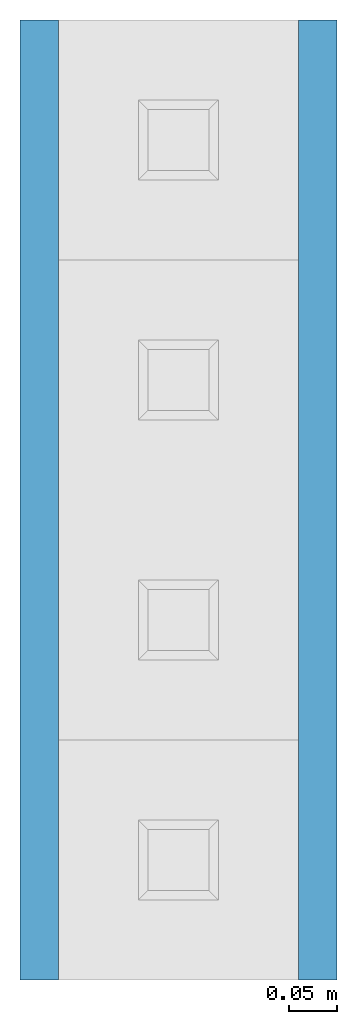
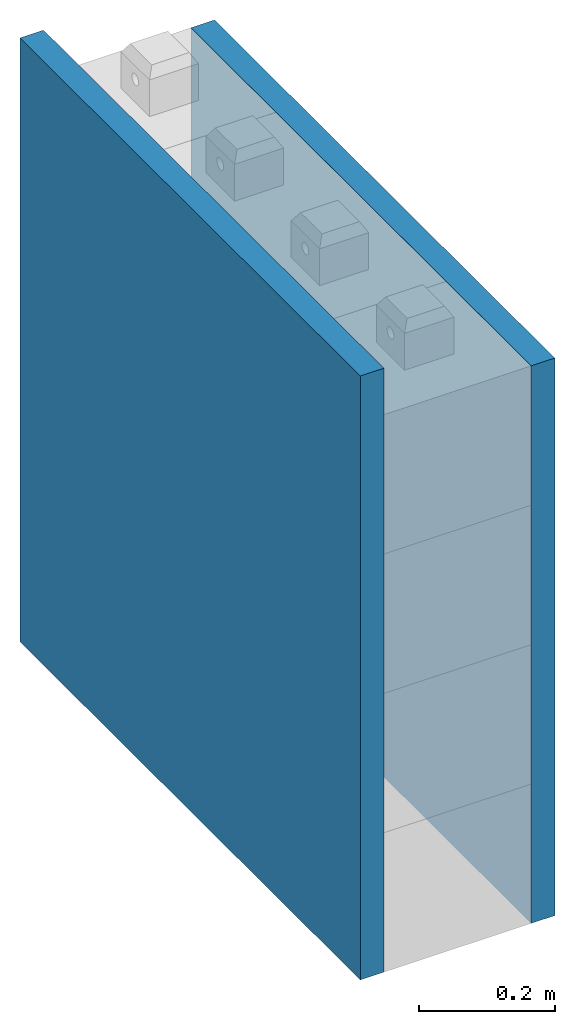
# One storey, incomplete: 2 walls.
"""IFC4 building model written with IfcOpenShell, lengths in centimetres."""

from ifc_helpers import new_model, si_unit, direction, frame, origin, place, context, subcontext, project, spatial, indexed_curve, outline, extrude, material, type_object, element, save


model = new_model("IFC4")

# Units and contexts
model_context = context("Model", 3, precision=0.001, world=origin(), true_north=direction((0.0, 1.0)))
body_context = subcontext(model_context, "Body", "Model", "MODEL_VIEW")
ifc_project = project(units=[si_unit("LENGTHUNIT", "METRE", prefix="CENTI"), si_unit("AREAUNIT", "SQUARE_METRE"), si_unit("VOLUMEUNIT", "CUBIC_METRE")], contexts=[model_context])

# Site, building, storey
site_placement = place(None, origin())
site = spatial("IfcSite", under=ifc_project, at=site_placement, Name="Default", CompositionType="ELEMENT")
building_placement = place(site_placement, origin())
building = spatial("IfcBuilding", under=site, at=building_placement, CompositionType="ELEMENT")
storey_placement = place(building_placement, frame((0.0, 0.0, -12.0)))
storey = spatial("IfcBuildingStorey", under=building, at=storey_placement, Name="L00__ABOVE Slab", CompositionType="ELEMENT", Elevation=-12.000000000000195)

# Walls
ifc_material = material(Name="_PB__GB__Fire Resistant__Type DF", Category="Generic")
wall_type = type_object("IfcWallType", Name="Walls : Basic Wall : wll__INT COVERING__GB, GYP Adhesive 2cm__20(H2) 3", PredefinedType="STANDARD")
wall_1_placement = place(storey_placement, frame((4853.5841485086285, 1684.8092102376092, 10.0), z_axis=(0.0, 0.0, 1.0), x_axis=(0.0, -1.0, 0.0)))
element("IfcWall", 1, at=wall_1_placement, inside=storey, type_object=wall_type, material=ifc_material, Name="Walls : Basic Wall : wll__INT COVERING__GB, GYP Adhesive 2cm__20(H2) 3", PredefinedType="NOTDEFINED", context=body_context, shape_type="SweptSolid", body=[
    extrude(outline(indexed_curve([(100.00000000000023, 1.9999999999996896), (-2.8876456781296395e-15, 2.0000000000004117), (2.8876456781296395e-15, -2.0000000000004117), (100.00000000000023, -2.0000000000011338), (100.00000000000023, 1.9999999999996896)], self_intersect=False)), origin(), (0.0, 0.0, 1.0), 100.00000000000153),
])
wall_2_placement = place(storey_placement, frame((4824.584148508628, 1684.8092102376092, 10.0), z_axis=(0.0, 0.0, 1.0), x_axis=(0.0, -1.0, 0.0)))
element("IfcWall", 2, at=wall_2_placement, inside=storey, type_object=wall_type, material=ifc_material, Name="Walls : Basic Wall : wll__INT COVERING__GB, GYP Adhesive 2cm__20(H2) 3", PredefinedType="NOTDEFINED", context=body_context, shape_type="SweptSolid", body=[
    extrude(outline(indexed_curve([(100.00000000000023, 2.000000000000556), (-2.8876456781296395e-15, 2.0000000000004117), (2.8876456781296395e-15, -2.0000000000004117), (100.00000000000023, -2.0000000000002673), (100.00000000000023, 2.000000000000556)], self_intersect=False)), origin(), (0.0, 0.0, 1.0), 108.33333333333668),
])

save(model, "model.ifc")
